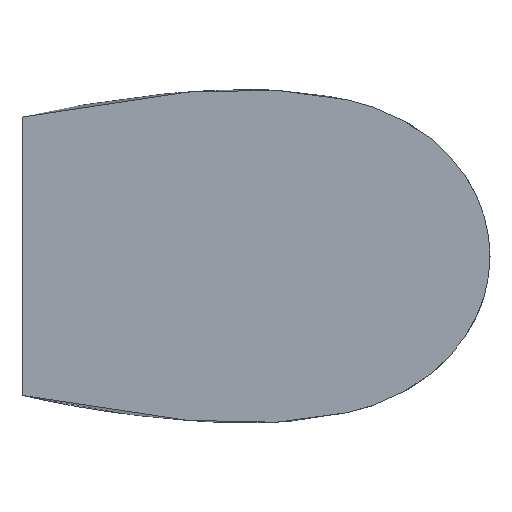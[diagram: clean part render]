
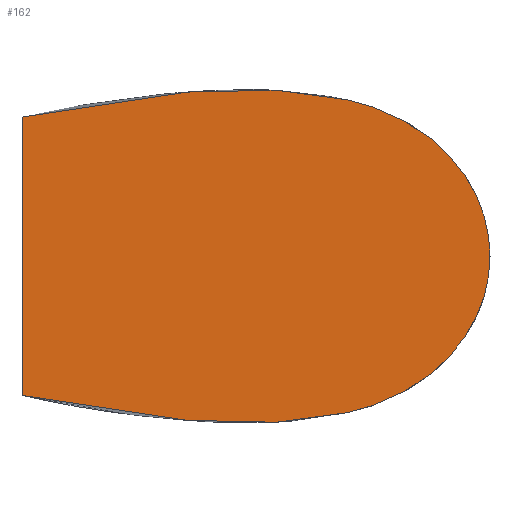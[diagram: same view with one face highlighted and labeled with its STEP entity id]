
A CAD part, left-side view. The second image highlights one B-rep face of the part: STEP entity #162.
In plain terms, the highlighted planar face has unit normal (-1, 0, 0).
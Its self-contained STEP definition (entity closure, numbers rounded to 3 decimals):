
#2=DIRECTION('',(0.,0.,-1.));
#3=VECTOR('',#2,1.802);
#4=CARTESIAN_POINT('',(-9.,-0.3,0.901));
#5=LINE('',#4,#3);
#10=CARTESIAN_POINT('',(-9.,-0.3,0.901));
#11=CARTESIAN_POINT('',(-9.,-0.423,0.929));
#12=CARTESIAN_POINT('',(-9.,-0.666,0.979));
#13=CARTESIAN_POINT('',(-9.,-0.97,1.024));
#14=CARTESIAN_POINT('',(-9.,-1.217,1.051));
#15=CARTESIAN_POINT('',(-9.,-1.375,1.064));
#16=CARTESIAN_POINT('',(-9.,-1.503,1.071));
#17=CARTESIAN_POINT('',(-9.,-1.633,1.08));
#18=CARTESIAN_POINT('',(-9.,-1.812,1.082));
#19=CARTESIAN_POINT('',(-9.,-2.045,1.07));
#20=CARTESIAN_POINT('',(-9.,-2.298,1.037));
#21=CARTESIAN_POINT('',(-9.,-2.553,0.982));
#22=CARTESIAN_POINT('',(-9.,-2.798,0.874));
#23=CARTESIAN_POINT('',(-9.,-3.016,0.716));
#24=CARTESIAN_POINT('',(-9.,-3.191,0.509));
#25=CARTESIAN_POINT('',(-9.,-3.304,0.263));
#26=CARTESIAN_POINT('',(-9.,-3.329,0.087));
#27=CARTESIAN_POINT('',(-9.,-3.329,0.));
#29=CARTESIAN_POINT('',(-9.,-0.3,-0.901));
#30=CARTESIAN_POINT('',(-9.,-0.423,-0.929));
#31=CARTESIAN_POINT('',(-9.,-0.666,-0.979));
#32=CARTESIAN_POINT('',(-9.,-0.97,-1.024));
#33=CARTESIAN_POINT('',(-9.,-1.217,-1.051));
#34=CARTESIAN_POINT('',(-9.,-1.375,-1.064));
#35=CARTESIAN_POINT('',(-9.,-1.503,-1.071));
#36=CARTESIAN_POINT('',(-9.,-1.633,-1.08));
#37=CARTESIAN_POINT('',(-9.,-1.812,-1.082));
#38=CARTESIAN_POINT('',(-9.,-2.045,-1.07));
#39=CARTESIAN_POINT('',(-9.,-2.298,-1.037));
#40=CARTESIAN_POINT('',(-9.,-2.553,-0.982));
#41=CARTESIAN_POINT('',(-9.,-2.798,-0.874));
#42=CARTESIAN_POINT('',(-9.,-3.016,-0.716));
#43=CARTESIAN_POINT('',(-9.,-3.191,-0.509));
#44=CARTESIAN_POINT('',(-9.,-3.304,-0.263));
#45=CARTESIAN_POINT('',(-9.,-3.329,-0.087));
#46=CARTESIAN_POINT('',(-9.,-3.329,0.));
#127=CARTESIAN_POINT('',(-9.,-0.3,0.901));
#128=CARTESIAN_POINT('',(-9.,-0.3,-0.901));
#129=VERTEX_POINT('',#127);
#130=VERTEX_POINT('',#128);
#131=VERTEX_POINT('',#27);
#150=CARTESIAN_POINT('',(-9.,0.,0.));
#151=DIRECTION('',(1.,0.,0.));
#152=DIRECTION('',(0.,0.,-1.));
#153=AXIS2_PLACEMENT_3D('',#150,#151,#152);
#154=PLANE('',#153);
#155=ORIENTED_EDGE('',*,*,#137,.F.);
#157=ORIENTED_EDGE('',*,*,#156,.T.);
#159=ORIENTED_EDGE('',*,*,#158,.F.);
#160=EDGE_LOOP('',(#155,#157,#159));
#161=FACE_OUTER_BOUND('',#160,.F.);
#162=ADVANCED_FACE('',(#161),#154,.F.);
#28=B_SPLINE_CURVE_WITH_KNOTS('',3,(#10,#11,#12,#13,#14,#15,#16,#17,#18,#19,#20,
#21,#22,#23,#24,#25,#26,#27),.UNSPECIFIED.,.F.,.F.,(4,1,1,1,1,1,1,1,1,1,1,1,1,1,
1,4),(0.,0.114,0.228,0.285,
0.342,0.371,0.399,0.456,
0.524,0.592,0.66,0.728,
0.796,0.864,0.932,1.),.UNSPECIFIED.);
#47=B_SPLINE_CURVE_WITH_KNOTS('',3,(#29,#30,#31,#32,#33,#34,#35,#36,#37,#38,#39,
#40,#41,#42,#43,#44,#45,#46),.UNSPECIFIED.,.F.,.F.,(4,1,1,1,1,1,1,1,1,1,1,1,1,1,
1,4),(0.,0.114,0.228,0.285,
0.342,0.371,0.399,0.456,
0.524,0.592,0.66,0.728,
0.796,0.864,0.932,1.),.UNSPECIFIED.);
#137=EDGE_CURVE('',#129,#130,#5,.T.);
#156=EDGE_CURVE('',#129,#131,#28,.T.);
#158=EDGE_CURVE('',#130,#131,#47,.T.);
